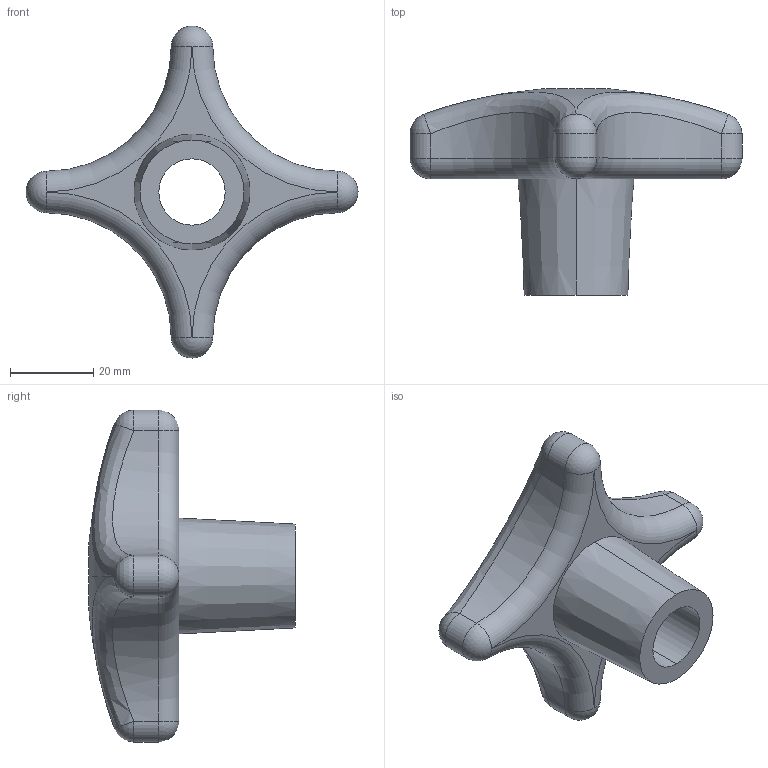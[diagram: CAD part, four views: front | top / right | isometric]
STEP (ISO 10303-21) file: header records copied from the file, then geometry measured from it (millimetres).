
FILE_DESCRIPTION (( 'STEP AP203' ), '1' );
FILE_NAME ('7000.W180.step', '2010-01-29T17:35:44', ( 'Wixroyd' ), ( 'Wixroyd' ), 'SwSTEP 2.0', 'SolidWorks 2009', '' );
FILE_SCHEMA (( 'CONFIG_CONTROL_DESIGN' ));
Length unit declared in the file: millimetre
Products named in the file (1): 7000.W180
Bounding box: 80 x 49.7 x 80 mm (x, y, z)
Volume: 47126.5 mm3; surface area: 12336.8 mm2
Topology: 1 solids, 1 shells, 33 faces, 71 edges, 36 vertices
Faces by surface type: cylinder 11, sphere 10, torus 4, bspline 4, cone 2, plane 2
Entity records: 3720 total; most frequent: CARTESIAN_POINT 2945, DIRECTION 165, ORIENTED_EDGE 134, AXIS2_PLACEMENT_3D 76, EDGE_CURVE 67, CIRCLE 46, VERTEX_POINT 36, EDGE_LOOP 35
